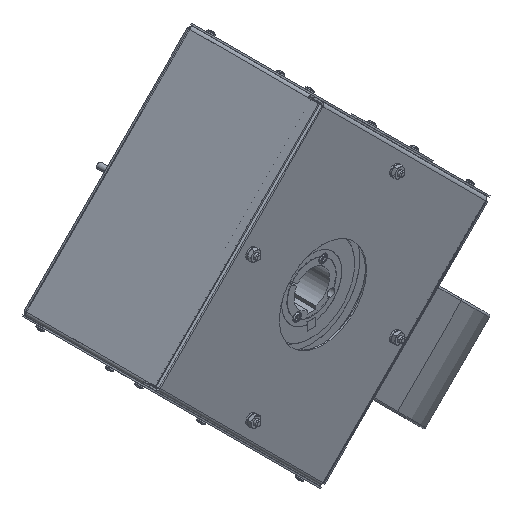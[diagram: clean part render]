
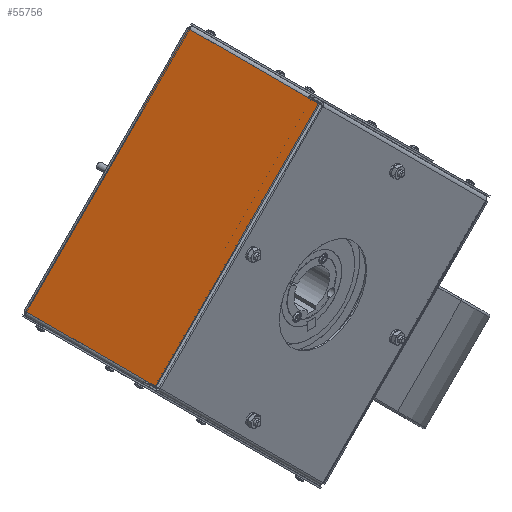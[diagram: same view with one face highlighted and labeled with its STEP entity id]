
A CAD part, isometric view. The second image highlights one B-rep face of the part: STEP entity #55756.
In plain terms, the highlighted planar face has unit normal (-0.707, 0, 0.707).
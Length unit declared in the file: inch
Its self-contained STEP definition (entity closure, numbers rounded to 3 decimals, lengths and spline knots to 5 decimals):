
#434 = ORIENTED_EDGE ( 'NONE', *, *, #2069, .T. ) ;
#2069 = EDGE_CURVE ( 'NONE', #36475, #10274, #20027, .T. ) ;
#2323 = DIRECTION ( 'NONE',  ( 0., 1., 0. ) ) ;
#2706 = LINE ( 'NONE', #19896, #19606 ) ;
#6275 = DIRECTION ( 'NONE',  ( 0., -1., 0. ) ) ;
#6325 = EDGE_CURVE ( 'NONE', #36893, #36475, #2706, .T. ) ;
#10274 = VERTEX_POINT ( 'NONE', #35551 ) ;
#11276 = DIRECTION ( 'NONE',  ( 0., -1., 0. ) ) ;
#16016 = CARTESIAN_POINT ( 'NONE',  ( -7.63711, 4.4645, 0.14107 ) ) ;
#16306 = VERTEX_POINT ( 'NONE', #57038 ) ;
#16408 = VECTOR ( 'NONE', #42844, 39.37008 ) ;
#18168 = EDGE_CURVE ( 'NONE', #53907, #43856, #20469, .T. ) ;
#19606 = VECTOR ( 'NONE', #51308, 39.37008 ) ;
#19896 = CARTESIAN_POINT ( 'NONE',  ( -3.88909, -1.62925, 3.88909 ) ) ;
#19921 = CARTESIAN_POINT ( 'NONE',  ( -0.04419, 4.3275, 7.73398 ) ) ;
#20027 = LINE ( 'NONE', #24779, #16408 ) ;
#20469 = LINE ( 'NONE', #19921, #44351 ) ;
#21357 = CARTESIAN_POINT ( 'NONE',  ( -7.63711, -1.62925, 0.14107 ) ) ;
#21911 = EDGE_LOOP ( 'NONE', ( #434, #31309, #40933, #49352, #35876, #48626 ) ) ;
#24662 = EDGE_CURVE ( 'NONE', #10274, #43856, #45614, .T. ) ;
#24779 = CARTESIAN_POINT ( 'NONE',  ( -0.14107, 4.4645, 7.63711 ) ) ;
#27729 = DIRECTION ( 'NONE',  ( 0., -1., 0. ) ) ;
#31309 = ORIENTED_EDGE ( 'NONE', *, *, #24662, .T. ) ;
#32177 = CARTESIAN_POINT ( 'NONE',  ( -0.14107, -1.62925, 7.63711 ) ) ;
#32765 = CARTESIAN_POINT ( 'NONE',  ( -7.63711, 4.3275, 0.14107 ) ) ;
#33412 = VECTOR ( 'NONE', #11276, 39.37008 ) ;
#35551 = CARTESIAN_POINT ( 'NONE',  ( -0.14107, -1.12925, 7.63711 ) ) ;
#35876 = ORIENTED_EDGE ( 'NONE', *, *, #54512, .T. ) ;
#36331 = LINE ( 'NONE', #32765, #55569 ) ;
#36475 = VERTEX_POINT ( 'NONE', #32177 ) ;
#36893 = VERTEX_POINT ( 'NONE', #21357 ) ;
#40933 = ORIENTED_EDGE ( 'NONE', *, *, #18168, .F. ) ;
#42424 = DIRECTION ( 'NONE',  ( 0.707, 0., -0.707 ) ) ;
#42844 = DIRECTION ( 'NONE',  ( 0., 1., 0. ) ) ;
#43856 = VERTEX_POINT ( 'NONE', #54148 ) ;
#44351 = VECTOR ( 'NONE', #47191, 39.37008 ) ;
#45614 = LINE ( 'NONE', #57107, #48997 ) ;
#45990 = FACE_OUTER_BOUND ( 'NONE', #21911, .T. ) ;
#46307 = PLANE ( 'NONE',  #50491 ) ;
#47129 = LINE ( 'NONE', #16016, #33412 ) ;
#47191 = DIRECTION ( 'NONE',  ( 0.707, 0., 0.707 ) ) ;
#48626 = ORIENTED_EDGE ( 'NONE', *, *, #6325, .T. ) ;
#48997 = VECTOR ( 'NONE', #2323, 39.37008 ) ;
#49040 = EDGE_CURVE ( 'NONE', #53907, #16306, #36331, .T. ) ;
#49352 = ORIENTED_EDGE ( 'NONE', *, *, #49040, .T. ) ;
#50491 = AXIS2_PLACEMENT_3D ( 'NONE', #51595, #42424, #6275 ) ;
#51308 = DIRECTION ( 'NONE',  ( 0.707, 0., 0.707 ) ) ;
#51595 = CARTESIAN_POINT ( 'NONE',  ( -3.88909, 4.4645, 3.88909 ) ) ;
#53422 = CARTESIAN_POINT ( 'NONE',  ( -7.63711, 4.3275, 0.14107 ) ) ;
#53907 = VERTEX_POINT ( 'NONE', #53422 ) ;
#54148 = CARTESIAN_POINT ( 'NONE',  ( -0.14107, 4.3275, 7.63711 ) ) ;
#54512 = EDGE_CURVE ( 'NONE', #16306, #36893, #47129, .T. ) ;
#55569 = VECTOR ( 'NONE', #27729, 39.37008 ) ;
#55756 = ADVANCED_FACE ( 'NONE', ( #45990 ), #46307, .F. ) ;
#57038 = CARTESIAN_POINT ( 'NONE',  ( -7.63711, -1.12925, 0.14107 ) ) ;
#57107 = CARTESIAN_POINT ( 'NONE',  ( -0.14107, -1.12925, 7.63711 ) ) ;
